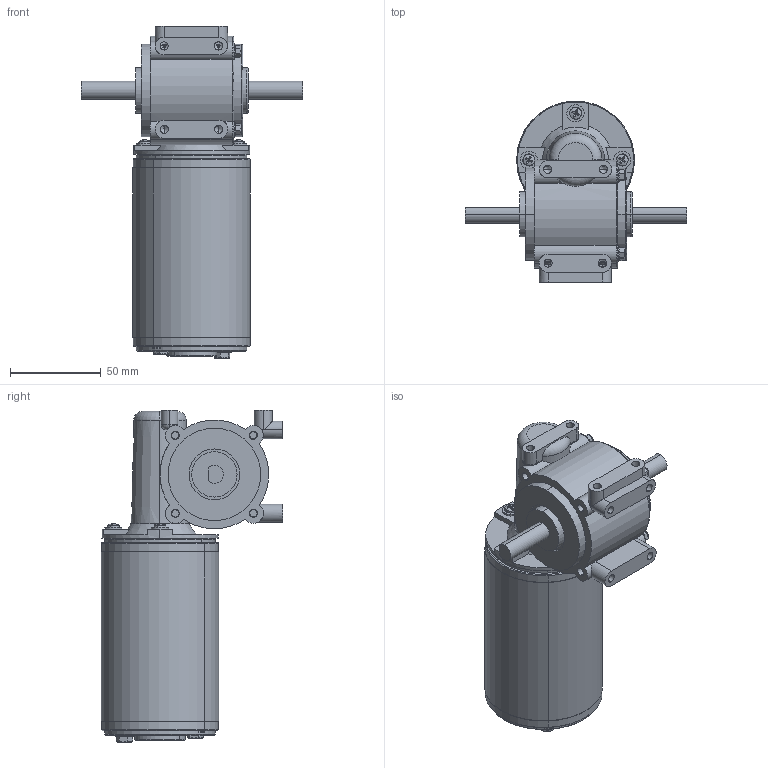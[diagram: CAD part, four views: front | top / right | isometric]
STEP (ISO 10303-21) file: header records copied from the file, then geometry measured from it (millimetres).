
FILE_DESCRIPTION (( 'STEP AP214' ), '1' );
FILE_NAME ('WG5946-D.STEP', '2017-06-13T06:02:33', ( 'Sky123.Org' ), ( 'Sky123.Org' ), 'SwSTEP 2.0', 'SolidWorks 2015', '' );
FILE_SCHEMA (( 'AUTOMOTIVE_DESIGN' ));
Length unit declared in the file: millimetre
Products named in the file (9): WG5946D-GEARBOX; flat washer type b regular_ai_Regular FW 0.112; binding head screw_ai_CR-BHMS 0.125-40x0.5625x0.5625-N; M5946 MOTOR 2017 CAT; slotted set screw flat point_ai_SSFLATSLT 0.164-32x0.164-N; hex washer screw_ai_IN-HWMS 0.19-24x0.25x0.25-N; M5946-CAT; hex flange machine screw_am_B18.6.7M - M4 x 0.7 x 5 Indented HFMS --5N; WG5946-D
Assembly tree (18 placements, depth 3):
  WG5946-D
    hex flange machine screw_am_B18.6.7M - M4 x 0.7 x 5 Indented HFMS --5N  x5
    M5946 MOTOR 2017 CAT
      M5946-CAT
      hex washer screw_ai_IN-HWMS 0.19-24x0.25x0.25-N  x2
      slotted set screw flat point_ai_SSFLATSLT 0.164-32x0.164-N  x2
    binding head screw_ai_CR-BHMS 0.125-40x0.5625x0.5625-N  x3
    flat washer type b regular_ai_Regular FW 0.112  x3
    WG5946D-GEARBOX
Bounding box: 122 x 100.3 x 183.11 mm (x, y, z)
Volume: 577520.1 mm3; surface area: 74779.1 mm2
Topology: 19 solids, 19 shells, 522 faces, 1196 edges, 735 vertices
Faces by surface type: plane 190, cylinder 151, cone 102, torus 35, bspline 30, sphere 14
Entity records: 11547 total; most frequent: CARTESIAN_POINT 2640, DIRECTION 1633, ORIENTED_EDGE 1472, EDGE_CURVE 736, AXIS2_PLACEMENT_3D 683, VERTEX_POINT 463, EDGE_LOOP 359, CIRCLE 354
